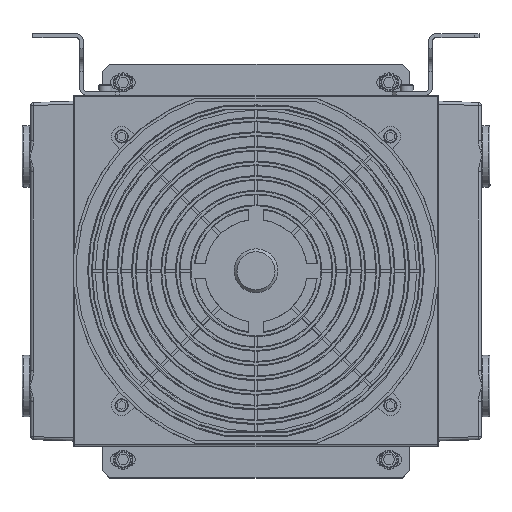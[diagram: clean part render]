
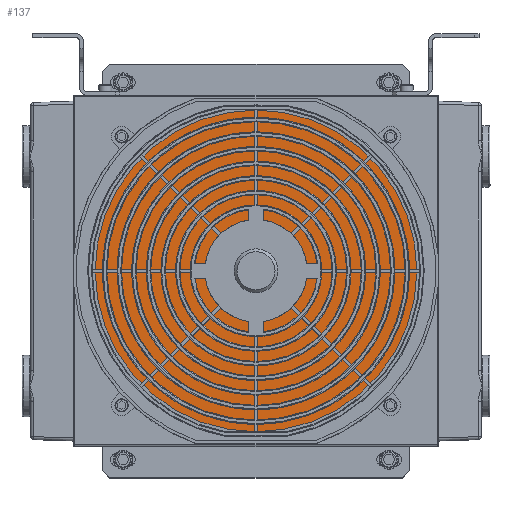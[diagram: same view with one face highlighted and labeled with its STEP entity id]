
A CAD part, top view. The second image highlights one B-rep face of the part: STEP entity #137.
In plain terms, the highlighted planar face has unit normal (0, 0, 1).
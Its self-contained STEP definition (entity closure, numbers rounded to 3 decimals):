
#7=CARTESIAN_POINT('',(-151.157,-69.649,-12.826));
#8=VERTEX_POINT('',#7);
#9=CARTESIAN_POINT('',(-381.157,-69.649,-12.826));
#10=VERTEX_POINT('',#9);
#11=CARTESIAN_POINT('',(-151.157,-69.649,-12.826));
#12=DIRECTION('',(-1.0,0.0,0.0));
#13=VECTOR('',#12,230.0);
#14=LINE('',#11,#13);
#15=EDGE_CURVE('',#8,#10,#14,.T.);
#47=CARTESIAN_POINT('',(-381.157,163.351,-12.826));
#48=VERTEX_POINT('',#47);
#49=CARTESIAN_POINT('',(-381.157,-69.649,-12.826));
#50=DIRECTION('',(0.0,1.0,0.0));
#51=VECTOR('',#50,233.0);
#52=LINE('',#49,#51);
#53=EDGE_CURVE('',#10,#48,#52,.T.);
#78=CARTESIAN_POINT('',(-151.157,163.351,-12.826));
#79=VERTEX_POINT('',#78);
#80=CARTESIAN_POINT('',(-381.157,163.351,-12.826));
#81=DIRECTION('',(1.0,0.0,0.0));
#82=VECTOR('',#81,230.0);
#83=LINE('',#80,#82);
#84=EDGE_CURVE('',#48,#79,#83,.T.);
#109=CARTESIAN_POINT('',(-151.157,163.351,-12.826));
#110=DIRECTION('',(0.0,-1.0,0.0));
#111=VECTOR('',#110,233.0);
#112=LINE('',#109,#111);
#113=EDGE_CURVE('',#79,#8,#112,.T.);
#126=CARTESIAN_POINT('',(-128.157,-92.949,-12.826));
#127=DIRECTION('',(0.0,0.0,-1.0));
#128=DIRECTION('',(-1.0,0.0,0.0));
#129=AXIS2_PLACEMENT_3D('',#126,#127,#128);
#130=PLANE('',#129);
#131=ORIENTED_EDGE('',*,*,#113,.F.);
#132=ORIENTED_EDGE('',*,*,#84,.F.);
#133=ORIENTED_EDGE('',*,*,#53,.F.);
#134=ORIENTED_EDGE('',*,*,#15,.F.);
#135=EDGE_LOOP('',(#131,#132,#133,#134));
#136=FACE_OUTER_BOUND('',#135,.T.);
#137=ADVANCED_FACE('',(#136),#130,.F.);
